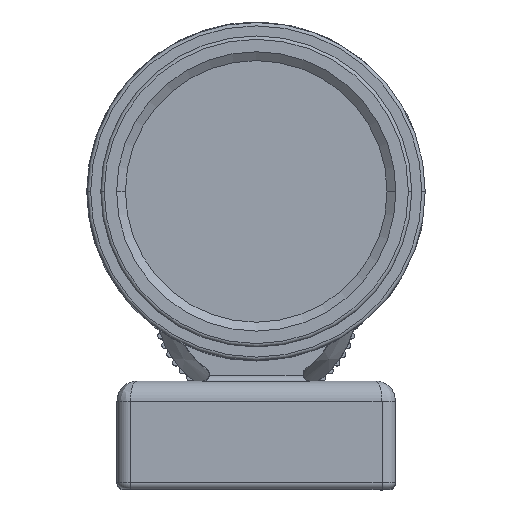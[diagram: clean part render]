
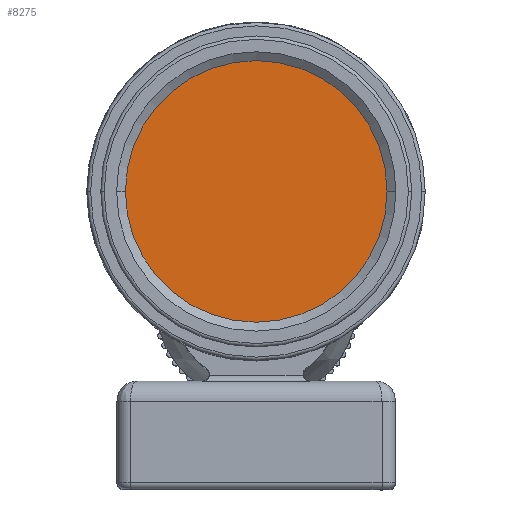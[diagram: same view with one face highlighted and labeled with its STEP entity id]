
A CAD part, top view. The second image highlights one B-rep face of the part: STEP entity #8275.
In plain terms, the highlighted planar face has unit normal (0, 0, 1).
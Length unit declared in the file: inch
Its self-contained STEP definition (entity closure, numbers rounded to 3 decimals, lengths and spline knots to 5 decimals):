
#8275 = ADVANCED_FACE ( 'NONE', ( #9190 ), #9181, .T. ) ;
#8318 = VERTEX_POINT ( 'NONE', #9319 ) ;
#8391 = VERTEX_POINT ( 'NONE', #9569 ) ;
#8397 = EDGE_CURVE ( 'NONE', #8391, #8318, #9563, .T. ) ;
#8469 = EDGE_CURVE ( 'NONE', #8318, #8391, #9684, .T. ) ;
#8497 = EDGE_LOOP ( 'NONE', ( #8501, #8502 ) ) ;
#8501 = ORIENTED_EDGE ( 'NONE', *, *, #8397, .T. ) ;
#8502 = ORIENTED_EDGE ( 'NONE', *, *, #8469, .T. ) ;
#9150 = DIRECTION ( 'NONE',  ( 1., 0., 0. ) ) ;
#9152 = DIRECTION ( 'NONE',  ( 0., 0., 1. ) ) ;
#9153 = CARTESIAN_POINT ( 'NONE',  ( 0., 0., 0.2 ) ) ;
#9155 = AXIS2_PLACEMENT_3D ( 'NONE', #9153, #9152, #9150 ) ;
#9181 = PLANE ( 'NONE',  #9155 ) ;
#9190 = FACE_OUTER_BOUND ( 'NONE', #8497, .T. ) ;
#9319 = CARTESIAN_POINT ( 'NONE',  ( 1.935, 0., 0.2 ) ) ;
#9559 = DIRECTION ( 'NONE',  ( 1., 0., 0. ) ) ;
#9560 = DIRECTION ( 'NONE',  ( 0., 0., 1. ) ) ;
#9561 = CARTESIAN_POINT ( 'NONE',  ( 0., 0., 0.2 ) ) ;
#9562 = AXIS2_PLACEMENT_3D ( 'NONE', #9561, #9560, #9559 ) ;
#9563 = CIRCLE ( 'NONE', #9562, 1.935 ) ;
#9569 = CARTESIAN_POINT ( 'NONE',  ( -1.935, 0., 0.2 ) ) ;
#9680 = DIRECTION ( 'NONE',  ( 1., 0., 0. ) ) ;
#9681 = DIRECTION ( 'NONE',  ( 0., 0., 1. ) ) ;
#9682 = CARTESIAN_POINT ( 'NONE',  ( 0., 0., 0.2 ) ) ;
#9683 = AXIS2_PLACEMENT_3D ( 'NONE', #9682, #9681, #9680 ) ;
#9684 = CIRCLE ( 'NONE', #9683, 1.935 ) ;
